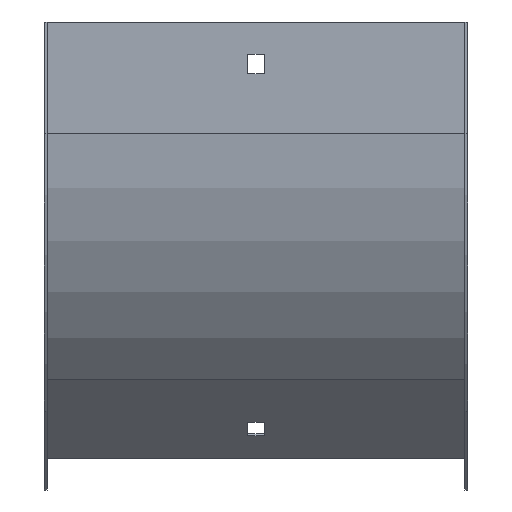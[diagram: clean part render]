
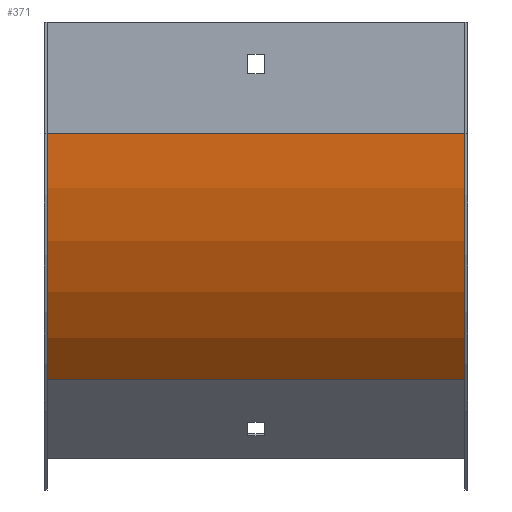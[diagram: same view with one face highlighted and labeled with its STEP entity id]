
A CAD part, front view. The second image highlights one B-rep face of the part: STEP entity #371.
In plain terms, the highlighted cylindrical face has radius 125 mm (diameter 250 mm), a partial arc.
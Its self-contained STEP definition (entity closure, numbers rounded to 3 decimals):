
#3 = VECTOR ( 'NONE', #108, 1000. ) ;
#108 = DIRECTION ( 'NONE',  ( -1., 0., 0. ) ) ;
#131 = LINE ( 'NONE', #511, #752 ) ;
#132 = DIRECTION ( 'NONE',  ( 0., 0., 1. ) ) ;
#158 = EDGE_CURVE ( 'NONE', #584, #805, #131, .T. ) ;
#167 = DIRECTION ( 'NONE',  ( -1., 0., 0. ) ) ;
#182 = DIRECTION ( 'NONE',  ( -1., 0., 0. ) ) ;
#187 = CIRCLE ( 'NONE', #619, 125. ) ;
#279 = EDGE_LOOP ( 'NONE', ( #315, #470, #563, #778 ) ) ;
#310 = VERTEX_POINT ( 'NONE', #709 ) ;
#314 = DIRECTION ( 'NONE',  ( -1., 0., 0. ) ) ;
#315 = ORIENTED_EDGE ( 'NONE', *, *, #553, .F. ) ;
#355 = CARTESIAN_POINT ( 'NONE',  ( -75., 35.612, -128.388 ) ) ;
#371 = ADVANCED_FACE ( 'NONE', ( #395 ), #503, .T. ) ;
#373 = CARTESIAN_POINT ( 'NONE',  ( 75., 124., -40. ) ) ;
#395 = FACE_OUTER_BOUND ( 'NONE', #279, .T. ) ;
#448 = CARTESIAN_POINT ( 'NONE',  ( -75., -1., -40. ) ) ;
#470 = ORIENTED_EDGE ( 'NONE', *, *, #521, .F. ) ;
#483 = CARTESIAN_POINT ( 'NONE',  ( 75., -1., -40. ) ) ;
#503 = CYLINDRICAL_SURFACE ( 'NONE', #694, 125. ) ;
#511 = CARTESIAN_POINT ( 'NONE',  ( 76., -1., -40. ) ) ;
#516 = DIRECTION ( 'NONE',  ( -1., 0., 0. ) ) ;
#521 = EDGE_CURVE ( 'NONE', #310, #532, #831, .T. ) ;
#532 = VERTEX_POINT ( 'NONE', #355 ) ;
#553 = EDGE_CURVE ( 'NONE', #532, #805, #554, .T. ) ;
#554 = CIRCLE ( 'NONE', #711, 125. ) ;
#560 = CARTESIAN_POINT ( 'NONE',  ( 76., 35.612, -128.388 ) ) ;
#563 = ORIENTED_EDGE ( 'NONE', *, *, #783, .T. ) ;
#564 = CARTESIAN_POINT ( 'NONE',  ( -75., 124., -40. ) ) ;
#584 = VERTEX_POINT ( 'NONE', #483 ) ;
#619 = AXIS2_PLACEMENT_3D ( 'NONE', #373, #516, #702 ) ;
#631 = DIRECTION ( 'NONE',  ( 0., 0., -1. ) ) ;
#652 = CARTESIAN_POINT ( 'NONE',  ( 76., 124., -40. ) ) ;
#694 = AXIS2_PLACEMENT_3D ( 'NONE', #652, #314, #132 ) ;
#702 = DIRECTION ( 'NONE',  ( 0., 0., -1. ) ) ;
#709 = CARTESIAN_POINT ( 'NONE',  ( 75., 35.612, -128.388 ) ) ;
#711 = AXIS2_PLACEMENT_3D ( 'NONE', #564, #167, #631 ) ;
#752 = VECTOR ( 'NONE', #182, 1000. ) ;
#778 = ORIENTED_EDGE ( 'NONE', *, *, #158, .T. ) ;
#783 = EDGE_CURVE ( 'NONE', #310, #584, #187, .T. ) ;
#805 = VERTEX_POINT ( 'NONE', #448 ) ;
#831 = LINE ( 'NONE', #560, #3 ) ;
